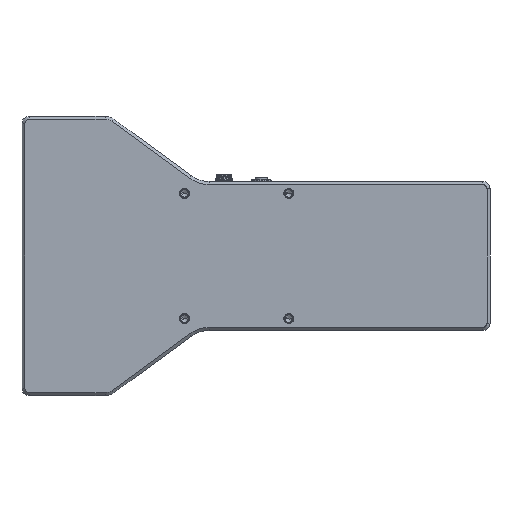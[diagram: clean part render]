
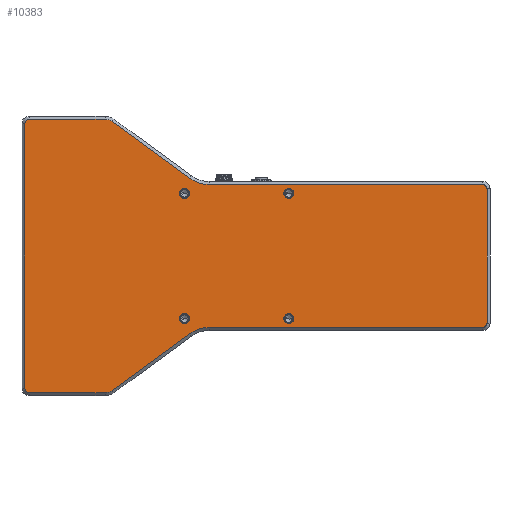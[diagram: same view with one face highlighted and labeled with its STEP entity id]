
A CAD part, front view. The second image highlights one B-rep face of the part: STEP entity #10383.
In plain terms, the highlighted planar face has unit normal (0, -1, 0).
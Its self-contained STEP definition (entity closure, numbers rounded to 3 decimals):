
#1=CARTESIAN_POINT('',(66.517,0.,70.));
#2=DIRECTION('',(0.,1.,0.));
#3=DIRECTION('',(0.,0.,-1.));
#4=AXIS2_PLACEMENT_3D('',#1,#2,#3);
#6=DIRECTION('',(-1.,0.,0.));
#7=VECTOR('',#6,183.483);
#8=CARTESIAN_POINT('',(250.,0.,48.));
#9=LINE('',#8,#7);
#10=CARTESIAN_POINT('',(250.,0.,45.));
#11=DIRECTION('',(0.,-1.,0.));
#12=DIRECTION('',(1.,0.,0.));
#13=AXIS2_PLACEMENT_3D('',#10,#11,#12);
#15=DIRECTION('',(0.,0.,1.));
#16=VECTOR('',#15,90.);
#17=CARTESIAN_POINT('',(253.,0.,-45.));
#18=LINE('',#17,#16);
#19=CARTESIAN_POINT('',(250.,0.,-45.));
#20=DIRECTION('',(0.,-1.,0.));
#21=DIRECTION('',(0.,0.,-1.));
#22=AXIS2_PLACEMENT_3D('',#19,#20,#21);
#24=DIRECTION('',(1.,0.,0.));
#25=VECTOR('',#24,183.483);
#26=CARTESIAN_POINT('',(66.517,0.,-48.));
#27=LINE('',#26,#25);
#28=CARTESIAN_POINT('',(66.517,0.,-70.));
#29=DIRECTION('',(0.,1.,0.));
#30=DIRECTION('',(-0.589,0.,0.808));
#31=AXIS2_PLACEMENT_3D('',#28,#29,#30);
#33=DIRECTION('',(0.808,0.,0.589));
#34=VECTOR('',#33,64.481);
#35=CARTESIAN_POINT('',(1.455,0.,-90.214));
#36=LINE('',#35,#34);
#37=CARTESIAN_POINT('',(-3.259,0.,-83.75));
#38=DIRECTION('',(0.,-1.,0.));
#39=DIRECTION('',(0.,0.,-1.));
#40=AXIS2_PLACEMENT_3D('',#37,#38,#39);
#42=DIRECTION('',(1.,0.,0.));
#43=VECTOR('',#42,50.741);
#44=CARTESIAN_POINT('',(-54.,0.,
-91.75));
#45=LINE('',#44,#43);
#46=CARTESIAN_POINT('',(-54.,0.,-88.75));
#47=DIRECTION('',(0.,-1.,0.));
#48=DIRECTION('',(-1.,0.,0.));
#49=AXIS2_PLACEMENT_3D('',#46,#47,#48);
#51=DIRECTION('',(0.,0.,-1.));
#52=VECTOR('',#51,177.5);
#53=CARTESIAN_POINT('',(-57.,0.,88.75));
#54=LINE('',#53,#52);
#55=CARTESIAN_POINT('',(-54.,0.,88.75));
#56=DIRECTION('',(0.,-1.,0.));
#57=DIRECTION('',(0.,0.,1.));
#58=AXIS2_PLACEMENT_3D('',#55,#56,#57);
#60=DIRECTION('',(-1.,0.,0.));
#61=VECTOR('',#60,50.741);
#62=CARTESIAN_POINT('',(-3.259,0.,91.75));
#63=LINE('',#62,#61);
#64=CARTESIAN_POINT('',(-3.259,0.,83.75));
#65=DIRECTION('',(0.,-1.,0.));
#66=DIRECTION('',(0.589,0.,0.808));
#67=AXIS2_PLACEMENT_3D('',#64,#65,#66);
#69=DIRECTION('',(-0.808,0.,0.589));
#70=VECTOR('',#69,64.481);
#71=CARTESIAN_POINT('',(53.556,0.,52.224));
#72=LINE('',#71,#70);
#73=CARTESIAN_POINT('',(120.,0.,-42.));
#74=DIRECTION('',(0.,1.,0.));
#75=DIRECTION('',(1.,0.,0.));
#76=AXIS2_PLACEMENT_3D('',#73,#74,#75);
#78=CARTESIAN_POINT('',(120.,0.,-42.));
#79=DIRECTION('',(0.,1.,0.));
#80=DIRECTION('',(-1.,0.,0.));
#81=AXIS2_PLACEMENT_3D('',#78,#79,#80);
#83=CARTESIAN_POINT('',(50.,0.,-42.));
#84=DIRECTION('',(0.,1.,0.));
#85=DIRECTION('',(1.,0.,0.));
#86=AXIS2_PLACEMENT_3D('',#83,#84,#85);
#88=CARTESIAN_POINT('',(50.,0.,-42.));
#89=DIRECTION('',(0.,1.,0.));
#90=DIRECTION('',(-1.,0.,0.));
#91=AXIS2_PLACEMENT_3D('',#88,#89,#90);
#93=CARTESIAN_POINT('',(120.,0.,42.));
#94=DIRECTION('',(0.,1.,0.));
#95=DIRECTION('',(1.,0.,0.));
#96=AXIS2_PLACEMENT_3D('',#93,#94,#95);
#98=CARTESIAN_POINT('',(120.,0.,42.));
#99=DIRECTION('',(0.,1.,0.));
#100=DIRECTION('',(-1.,0.,0.));
#101=AXIS2_PLACEMENT_3D('',#98,#99,#100);
#103=CARTESIAN_POINT('',(50.,0.,42.));
#104=DIRECTION('',(0.,1.,0.));
#105=DIRECTION('',(1.,0.,0.));
#106=AXIS2_PLACEMENT_3D('',#103,#104,#105);
#108=CARTESIAN_POINT('',(50.,0.,42.));
#109=DIRECTION('',(0.,1.,0.));
#110=DIRECTION('',(-1.,0.,0.));
#111=AXIS2_PLACEMENT_3D('',#108,#109,#110);
#8359=CARTESIAN_POINT('',(66.517,0.,48.));
#8360=CARTESIAN_POINT('',(53.556,0.,52.224));
#8361=VERTEX_POINT('',#8359);
#8362=VERTEX_POINT('',#8360);
#8367=CARTESIAN_POINT('',(1.455,0.,
90.214));
#8368=VERTEX_POINT('',#8367);
#8371=CARTESIAN_POINT('',(-3.259,0.,91.75));
#8372=VERTEX_POINT('',#8371);
#8375=CARTESIAN_POINT('',(-54.,0.,
91.75));
#8376=VERTEX_POINT('',#8375);
#8379=CARTESIAN_POINT('',(-57.,0.,88.75));
#8380=VERTEX_POINT('',#8379);
#8383=CARTESIAN_POINT('',(-57.,0.,
-88.75));
#8384=VERTEX_POINT('',#8383);
#8387=CARTESIAN_POINT('',(-54.,0.,-91.75));
#8388=VERTEX_POINT('',#8387);
#8391=CARTESIAN_POINT('',(-3.259,0.,
-91.75));
#8392=VERTEX_POINT('',#8391);
#8395=CARTESIAN_POINT('',(1.455,0.,-90.214));
#8396=VERTEX_POINT('',#8395);
#8399=CARTESIAN_POINT('',(53.556,0.,
-52.224));
#8400=VERTEX_POINT('',#8399);
#8403=CARTESIAN_POINT('',(66.517,0.,-48.));
#8404=VERTEX_POINT('',#8403);
#8407=CARTESIAN_POINT('',(250.,0.,
-48.));
#8408=VERTEX_POINT('',#8407);
#8411=CARTESIAN_POINT('',(253.,0.,-45.));
#8412=VERTEX_POINT('',#8411);
#8415=CARTESIAN_POINT('',(253.,0.,
45.));
#8416=VERTEX_POINT('',#8415);
#8419=CARTESIAN_POINT('',(250.,0.,48.));
#8420=VERTEX_POINT('',#8419);
#9205=CARTESIAN_POINT('',(123.3,0.,-42.));
#9206=CARTESIAN_POINT('',(116.7,0.,-42.));
#9207=VERTEX_POINT('',#9205);
#9208=VERTEX_POINT('',#9206);
#9213=CARTESIAN_POINT('',(53.3,0.,-42.));
#9214=CARTESIAN_POINT('',(46.7,0.,-42.));
#9215=VERTEX_POINT('',#9213);
#9216=VERTEX_POINT('',#9214);
#9221=CARTESIAN_POINT('',(123.3,0.,42.));
#9222=CARTESIAN_POINT('',(116.7,0.,42.));
#9223=VERTEX_POINT('',#9221);
#9224=VERTEX_POINT('',#9222);
#9229=CARTESIAN_POINT('',(53.3,0.,42.));
#9230=CARTESIAN_POINT('',(46.7,0.,42.));
#9231=VERTEX_POINT('',#9229);
#9232=VERTEX_POINT('',#9230);
#10320=CARTESIAN_POINT('',(0.,0.,0.));
#10321=DIRECTION('',(0.,1.,0.));
#10322=DIRECTION('',(1.,0.,0.));
#10323=AXIS2_PLACEMENT_3D('',#10320,#10321,#10322);
#10324=PLANE('',#10323);
#10326=ORIENTED_EDGE('',*,*,#10325,.F.);
#10328=ORIENTED_EDGE('',*,*,#10327,.F.);
#10330=ORIENTED_EDGE('',*,*,#10329,.F.);
#10332=ORIENTED_EDGE('',*,*,#10331,.F.);
#10334=ORIENTED_EDGE('',*,*,#10333,.F.);
#10336=ORIENTED_EDGE('',*,*,#10335,.F.);
#10338=ORIENTED_EDGE('',*,*,#10337,.F.);
#10340=ORIENTED_EDGE('',*,*,#10339,.F.);
#10342=ORIENTED_EDGE('',*,*,#10341,.F.);
#10344=ORIENTED_EDGE('',*,*,#10343,.F.);
#10346=ORIENTED_EDGE('',*,*,#10345,.F.);
#10348=ORIENTED_EDGE('',*,*,#10347,.F.);
#10350=ORIENTED_EDGE('',*,*,#10349,.F.);
#10352=ORIENTED_EDGE('',*,*,#10351,.F.);
#10354=ORIENTED_EDGE('',*,*,#10353,.F.);
#10356=ORIENTED_EDGE('',*,*,#10355,.F.);
#10357=EDGE_LOOP('',(#10326,#10328,#10330,#10332,#10334,#10336,#10338,#10340,
#10342,#10344,#10346,#10348,#10350,#10352,#10354,#10356));
#10358=FACE_OUTER_BOUND('',#10357,.F.);
#10360=ORIENTED_EDGE('',*,*,#10359,.F.);
#10362=ORIENTED_EDGE('',*,*,#10361,.F.);
#10363=EDGE_LOOP('',(#10360,#10362));
#10364=FACE_BOUND('',#10363,.F.);
#10366=ORIENTED_EDGE('',*,*,#10365,.F.);
#10368=ORIENTED_EDGE('',*,*,#10367,.F.);
#10369=EDGE_LOOP('',(#10366,#10368));
#10370=FACE_BOUND('',#10369,.F.);
#10372=ORIENTED_EDGE('',*,*,#10371,.F.);
#10374=ORIENTED_EDGE('',*,*,#10373,.F.);
#10375=EDGE_LOOP('',(#10372,#10374));
#10376=FACE_BOUND('',#10375,.F.);
#10378=ORIENTED_EDGE('',*,*,#10377,.F.);
#10380=ORIENTED_EDGE('',*,*,#10379,.F.);
#10381=EDGE_LOOP('',(#10378,#10380));
#10382=FACE_BOUND('',#10381,.F.);
#10383=ADVANCED_FACE('',(#10358,#10364,#10370,#10376,#10382),#10324,.F.);
#5=CIRCLE('',#4,22.);
#14=CIRCLE('',#13,3.);
#23=CIRCLE('',#22,3.);
#32=CIRCLE('',#31,22.);
#41=CIRCLE('',#40,8.);
#50=CIRCLE('',#49,3.);
#59=CIRCLE('',#58,3.);
#68=CIRCLE('',#67,8.);
#77=CIRCLE('',#76,3.3);
#82=CIRCLE('',#81,3.3);
#87=CIRCLE('',#86,3.3);
#92=CIRCLE('',#91,3.3);
#97=CIRCLE('',#96,3.3);
#102=CIRCLE('',#101,3.3);
#107=CIRCLE('',#106,3.3);
#112=CIRCLE('',#111,3.3);
#10325=EDGE_CURVE('',#8361,#8362,#5,.T.);
#10327=EDGE_CURVE('',#8420,#8361,#9,.T.);
#10329=EDGE_CURVE('',#8416,#8420,#14,.T.);
#10331=EDGE_CURVE('',#8412,#8416,#18,.T.);
#10333=EDGE_CURVE('',#8408,#8412,#23,.T.);
#10335=EDGE_CURVE('',#8404,#8408,#27,.T.);
#10337=EDGE_CURVE('',#8400,#8404,#32,.T.);
#10339=EDGE_CURVE('',#8396,#8400,#36,.T.);
#10341=EDGE_CURVE('',#8392,#8396,#41,.T.);
#10343=EDGE_CURVE('',#8388,#8392,#45,.T.);
#10345=EDGE_CURVE('',#8384,#8388,#50,.T.);
#10347=EDGE_CURVE('',#8380,#8384,#54,.T.);
#10349=EDGE_CURVE('',#8376,#8380,#59,.T.);
#10351=EDGE_CURVE('',#8372,#8376,#63,.T.);
#10353=EDGE_CURVE('',#8368,#8372,#68,.T.);
#10355=EDGE_CURVE('',#8362,#8368,#72,.T.);
#10359=EDGE_CURVE('',#9207,#9208,#77,.T.);
#10361=EDGE_CURVE('',#9208,#9207,#82,.T.);
#10365=EDGE_CURVE('',#9215,#9216,#87,.T.);
#10367=EDGE_CURVE('',#9216,#9215,#92,.T.);
#10371=EDGE_CURVE('',#9223,#9224,#97,.T.);
#10373=EDGE_CURVE('',#9224,#9223,#102,.T.);
#10377=EDGE_CURVE('',#9231,#9232,#107,.T.);
#10379=EDGE_CURVE('',#9232,#9231,#112,.T.);
